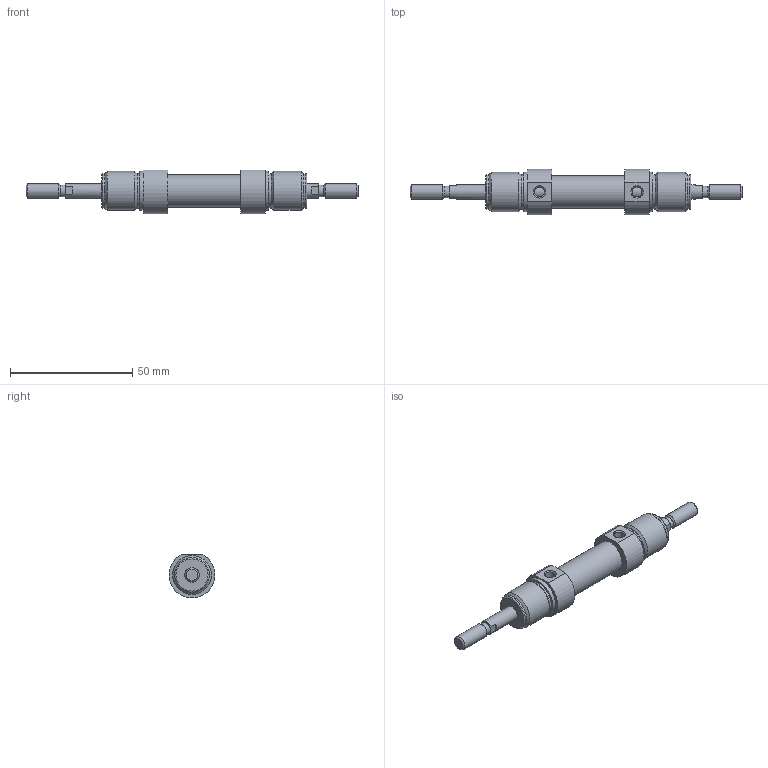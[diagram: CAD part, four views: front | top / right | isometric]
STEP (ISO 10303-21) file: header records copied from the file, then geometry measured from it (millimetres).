
FILE_DESCRIPTION(/* description */ (''),/* implementation_level */ '2;1');
FILE_NAME(/* name */ '\\UNIVER\Disegni in Archivio 2\CATALOGO STEP_Sito\MODELLI CILINDRI M\3D STEP\M101_M201\dia. 12\M101-12-0000.stp',/* time_stamp */ '2014-02-04T10:11:24+01:00',/* author */ ('Boceda'),/* organization */ (''),/* preprocessor_version */ 'ST-DEVELOPER v15.2',/* originating_system */ 'Autodesk Inventor 2014',/* authorisation */ '');
FILE_SCHEMA (('AUTOMOTIVE_DESIGN { 1 0 10303 214 3 1 1 }'));
Length unit declared in the file: centimetre
Products named in the file (1): M101-12-0000
Bounding box: 136 x 18.73 x 17.86 mm (x, y, z)
Volume: 17417.8 mm3; surface area: 6087.7 mm2
Topology: 1 solids, 1 shells, 59 faces, 118 edges, 73 vertices
Faces by surface type: plane 22, cylinder 21, cone 14, torus 2
Full cylindrical faces by diameter (mm): 4.134 x2, 4.773 x2, 6 x4, 13.3 x1, 14.16 x4, 16 x4
Entity records: 1433 total; most frequent: CARTESIAN_POINT 302, DIRECTION 248, ORIENTED_EDGE 168, AXIS2_PLACEMENT_3D 112, EDGE_LOOP 100, EDGE_CURVE 84, VERTEX_POINT 68, FACE_OUTER_BOUND 59
